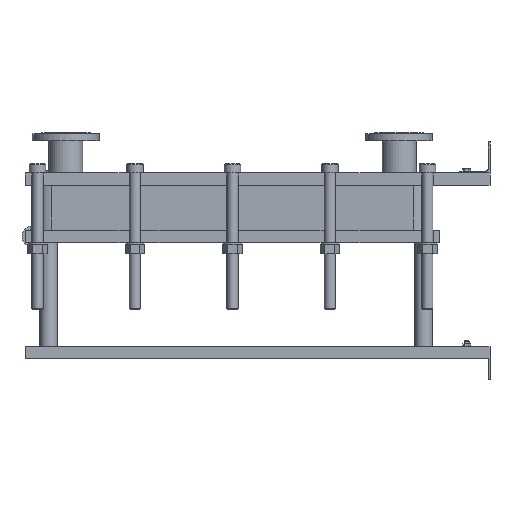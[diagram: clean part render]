
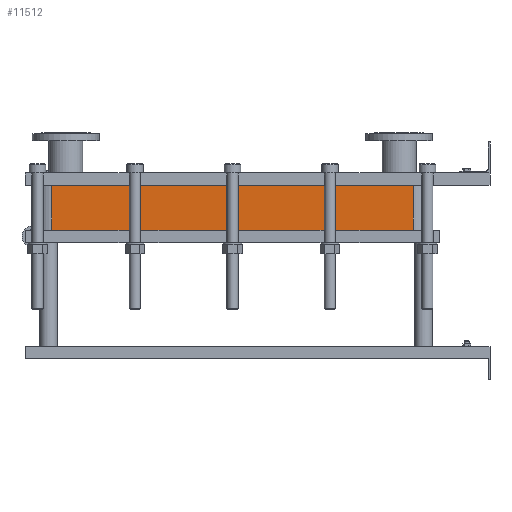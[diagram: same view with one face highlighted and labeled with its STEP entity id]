
A CAD part, left-side view. The second image highlights one B-rep face of the part: STEP entity #11512.
In plain terms, the highlighted planar face has unit normal (-1, 0, 0).
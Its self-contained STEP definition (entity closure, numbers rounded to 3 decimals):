
#1129=LINE('',#23232,#2102);
#1130=LINE('',#23236,#2103);
#1131=LINE('',#23238,#2104);
#1132=LINE('',#23239,#2105);
#2102=VECTOR('',#15887,10.);
#2103=VECTOR('',#15892,10.);
#2104=VECTOR('',#15893,10.);
#2105=VECTOR('',#15894,10.);
#3267=FACE_OUTER_BOUND('',#4093,.T.);
#4093=EDGE_LOOP('',(#10103,#10104,#10105,#10106));
#5642=VERTEX_POINT('',#23229);
#5643=VERTEX_POINT('',#23231);
#5644=VERTEX_POINT('',#23235);
#5645=VERTEX_POINT('',#23237);
#7159=EDGE_CURVE('',#5643,#5642,#1129,.T.);
#7161=EDGE_CURVE('',#5642,#5644,#1130,.T.);
#7162=EDGE_CURVE('',#5645,#5644,#1131,.T.);
#7163=EDGE_CURVE('',#5645,#5643,#1132,.T.);
#10103=ORIENTED_EDGE('',*,*,#7161,.T.);
#10104=ORIENTED_EDGE('',*,*,#7162,.F.);
#10105=ORIENTED_EDGE('',*,*,#7163,.T.);
#10106=ORIENTED_EDGE('',*,*,#7159,.T.);
#10857=PLANE('',#12751);
#11512=ADVANCED_FACE('',(#3267),#10857,.T.);
#12751=AXIS2_PLACEMENT_3D('',#23234,#15890,#15891);
#15887=DIRECTION('',(0.,0.,-1.));
#15890=DIRECTION('center_axis',(-1.,0.,0.));
#15891=DIRECTION('ref_axis',(0.,1.,0.));
#15892=DIRECTION('',(0.,-1.,0.));
#15893=DIRECTION('',(0.,0.,-1.));
#15894=DIRECTION('',(0.,1.,0.));
#23229=CARTESIAN_POINT('',(-200.,1414.,-144.9));
#23231=CARTESIAN_POINT('',(-200.,1414.,0.));
#23232=CARTESIAN_POINT('',(-200.,1414.,0.));
#23234=CARTESIAN_POINT('Origin',(-200.,248.,0.));
#23235=CARTESIAN_POINT('',(-200.,248.,-144.9));
#23236=CARTESIAN_POINT('',(-200.,539.5,-144.9));
#23237=CARTESIAN_POINT('',(-200.,248.,0.));
#23238=CARTESIAN_POINT('',(-200.,248.,0.));
#23239=CARTESIAN_POINT('',(-200.,248.,0.));
